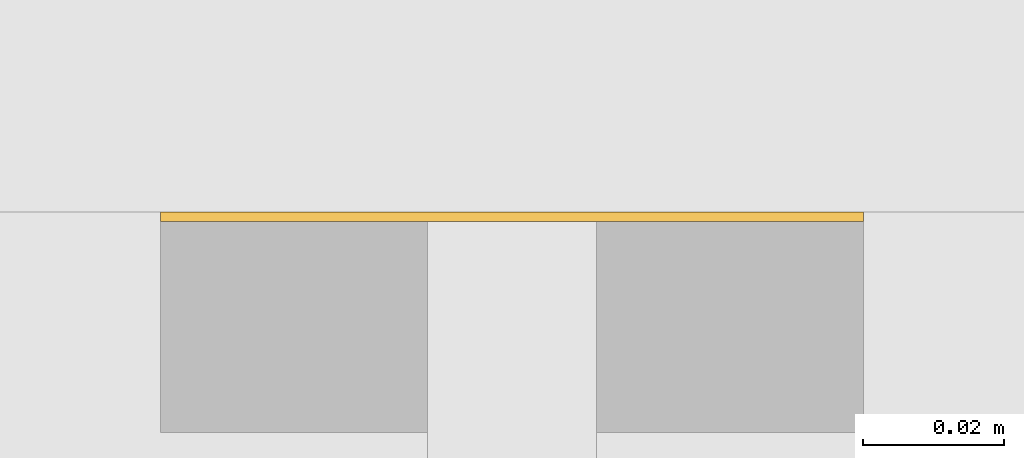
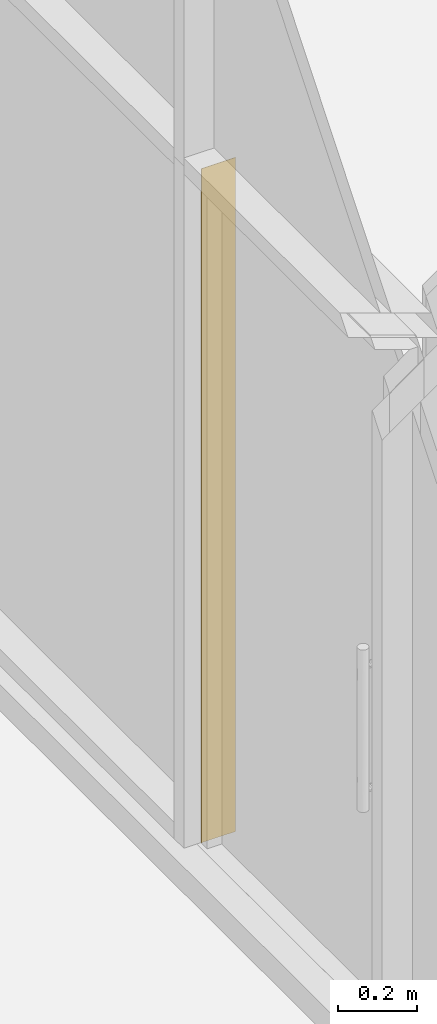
# One storey, part 76 of 100: 1 curtain wall, 1 opening, 1 element without a shape of its own.
"""IFC2X3 building model written with IfcOpenShell, lengths in millimetres."""

from ifc_helpers import new_model, entity, si_unit, converted_unit, derived_unit, direction, frame, frame_2d, origin, place, context, subcontext, project, spatial, rectangle, extrude, material, layer, layer_set, layer_usage, type_object, element, aggregate, save


model = new_model("IFC2X3")

# Units and contexts
model_context = context("Model", 3, precision=0.01, world=origin(), true_north=direction((6.123031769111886e-17, 1.0)))
body_context = subcontext(model_context, "Body", "Model", "MODEL_VIEW")
ifc_project = project(units=[si_unit("LENGTHUNIT", "METRE", prefix="MILLI"), si_unit("AREAUNIT", "SQUARE_METRE"), si_unit("VOLUMEUNIT", "CUBIC_METRE"), converted_unit("PLANEANGLEUNIT", "DEGREE", entity("IfcRatioMeasure", 0.017453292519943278), si_unit("PLANEANGLEUNIT", "RADIAN"), dimensions=[0, 0, 0, 0, 0, 0, 0]), si_unit("MASSUNIT", "GRAM", prefix="KILO"), derived_unit("MASSDENSITYUNIT", [(si_unit("MASSUNIT", "GRAM", prefix="KILO"), 1), (si_unit("LENGTHUNIT", "METRE"), -3)]), derived_unit("MOMENTOFINERTIAUNIT", [(si_unit("LENGTHUNIT", "METRE"), 4)]), si_unit("TIMEUNIT", "SECOND"), si_unit("FREQUENCYUNIT", "HERTZ"), si_unit("THERMODYNAMICTEMPERATUREUNIT", "DEGREE_CELSIUS"), derived_unit("THERMALTRANSMITTANCEUNIT", [(si_unit("MASSUNIT", "GRAM", prefix="KILO"), 1), (si_unit("THERMODYNAMICTEMPERATUREUNIT", "KELVIN"), -1), (si_unit("TIMEUNIT", "SECOND"), -3)]), derived_unit("VOLUMETRICFLOWRATEUNIT", [(si_unit("LENGTHUNIT", "METRE"), 3), (si_unit("TIMEUNIT", "SECOND"), -1)]), derived_unit("MASSFLOWRATEUNIT", [(si_unit("MASSUNIT", "GRAM", prefix="KILO"), 1), (si_unit("TIMEUNIT", "SECOND"), -1)]), derived_unit("ROTATIONALFREQUENCYUNIT", [(si_unit("TIMEUNIT", "SECOND"), -1)]), si_unit("ELECTRICCURRENTUNIT", "AMPERE"), si_unit("ELECTRICVOLTAGEUNIT", "VOLT"), si_unit("POWERUNIT", "WATT"), si_unit("FORCEUNIT", "NEWTON", prefix="KILO"), si_unit("ILLUMINANCEUNIT", "LUX"), si_unit("LUMINOUSFLUXUNIT", "LUMEN"), si_unit("LUMINOUSINTENSITYUNIT", "CANDELA"), derived_unit("USERDEFINED", [(si_unit("MASSUNIT", "GRAM", prefix="KILO"), -1), (si_unit("LENGTHUNIT", "METRE"), -2), (si_unit("TIMEUNIT", "SECOND"), 3), (si_unit("LUMINOUSFLUXUNIT", "LUMEN"), 1)]), derived_unit("SOUNDPOWERUNIT", [(si_unit("MASSUNIT", "GRAM", prefix="KILO"), 1), (si_unit("LENGTHUNIT", "METRE"), 2), (si_unit("TIMEUNIT", "SECOND"), -3)]), derived_unit("SOUNDPRESSUREUNIT", [(si_unit("MASSUNIT", "GRAM", prefix="KILO"), 1), (si_unit("LENGTHUNIT", "METRE"), -1), (si_unit("TIMEUNIT", "SECOND"), -2)]), derived_unit("LINEARVELOCITYUNIT", [(si_unit("LENGTHUNIT", "METRE"), 1), (si_unit("TIMEUNIT", "SECOND"), -1)]), si_unit("PRESSUREUNIT", "PASCAL"), derived_unit("USERDEFINED", [(si_unit("LENGTHUNIT", "METRE"), -2), (si_unit("MASSUNIT", "GRAM", prefix="KILO"), 1), (si_unit("TIMEUNIT", "SECOND"), -2)]), derived_unit("LINEARFORCEUNIT", [(si_unit("MASSUNIT", "GRAM", prefix="KILO"), 1), (si_unit("LENGTHUNIT", "METRE"), 1), (si_unit("TIMEUNIT", "SECOND"), -2), (si_unit("LENGTHUNIT", "METRE"), -1)]), derived_unit("PLANARFORCEUNIT", [(si_unit("MASSUNIT", "GRAM", prefix="KILO"), 1), (si_unit("LENGTHUNIT", "METRE"), 1), (si_unit("TIMEUNIT", "SECOND"), -2), (si_unit("LENGTHUNIT", "METRE"), -2)])], contexts=[model_context])

# Site, building, storey
site_placement = place(None, frame((-14167.972527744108, -657.2125860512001, 0.0)))
site = spatial("IfcSite", under=ifc_project, at=site_placement, Name="Default", CompositionType="ELEMENT")
building_placement = place(site_placement, origin())
building = spatial("IfcBuilding", under=site, at=building_placement, Name="Sample Building", CompositionType="ELEMENT")
storey_placement = place(building_placement, origin())
storey = spatial("IfcBuildingStorey", under=building, at=storey_placement, Name="지상 1층", CompositionType="ELEMENT", Elevation=0.0)

# Curtain walls, opening
curtain_wall_type_1 = type_object("IfcCurtainWallType", Name="커튼월:CW112-스테인리스 스틸 커튼월", PredefinedType="NOTDEFINED")
curtain_wall_1_placement = place(storey_placement, origin())
curtain_wall_1 = element("IfcCurtainWall", 1, at=curtain_wall_1_placement, inside=storey, type_object=curtain_wall_type_1, Name="커튼월:CW112-스테인리스 스틸 커튼월", ObjectType="커튼월:CW112-스테인리스 스틸 커튼월")
ifc_material = material(Name="KBIMS-콘크리트")
ifc_layer = layer(ifc_material, 100.0)
ifc_layer_set = layer_set([ifc_layer], Name="커튼월:CW112-스테인리스 스틸 커튼월")
ifc_layer_usage = layer_usage(ifc_layer_set, "AXIS2", "NEGATIVE", 50.0)
curtain_wall_type_2 = type_object("IfcCurtainWallType", Name="기본 벽:WA111-철근콘크리트구조 벽 100mm", PredefinedType="NOTDEFINED", material=ifc_layer_set)
curtain_wall_2_placement = place(storey_placement, frame((14129.839654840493, 24532.177624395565, 80.0), z_axis=(0.0, 0.0, 1.0), x_axis=(0.0, -1.0, 0.0)))
curtain_wall_2 = element("IfcCurtainWall", 2, at=curtain_wall_2_placement, type_object=curtain_wall_type_2, material=ifc_layer_usage, Name="기본 벽:WA111-철근콘크리트구조 벽 100mm", ObjectType="기본 벽:WA111-철근콘크리트구조 벽 100mm", context=body_context, shape_type="SweptSolid", body=[
    extrude(rectangle(XDim=1.3811685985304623, YDim=100.00000000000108, at=frame_2d((-2.165767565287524e-12, 1.0835776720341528e-12), x_axis=(1.0, 0.0))), frame((0.6905842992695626, 0.0, 0.0)), (0.0, 0.0, 1.0), 2075.0),
])
opening_placement = place(curtain_wall_2_placement, frame((951.3811685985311, 50.0, -20.0)))
element("IfcOpeningElement", 3, at=opening_placement, cuts=curtain_wall_2, Name="DR111-외여닫이문(철재, 일반, 양개):DR111-외여닫이문(유리, 일반, 양개) 950x2100mm:1", ObjectType="Opening", context=body_context, shape_type="SweptSolid", body=[
    extrude(rectangle(XDim=2099.9999999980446, YDim=949.9999999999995, at=frame_2d((1049.9999999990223, 474.9999999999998), x_axis=(1.0, 0.0))), frame((0.0, 0.0, 0.0), z_axis=(0.0, -1.0, 0.0), x_axis=(0.0, 0.0, 1.0)), (0.0, 0.0, 1.0), 100.0),
])
aggregate(curtain_wall_1, [curtain_wall_2])

save(model, "model.ifc")
